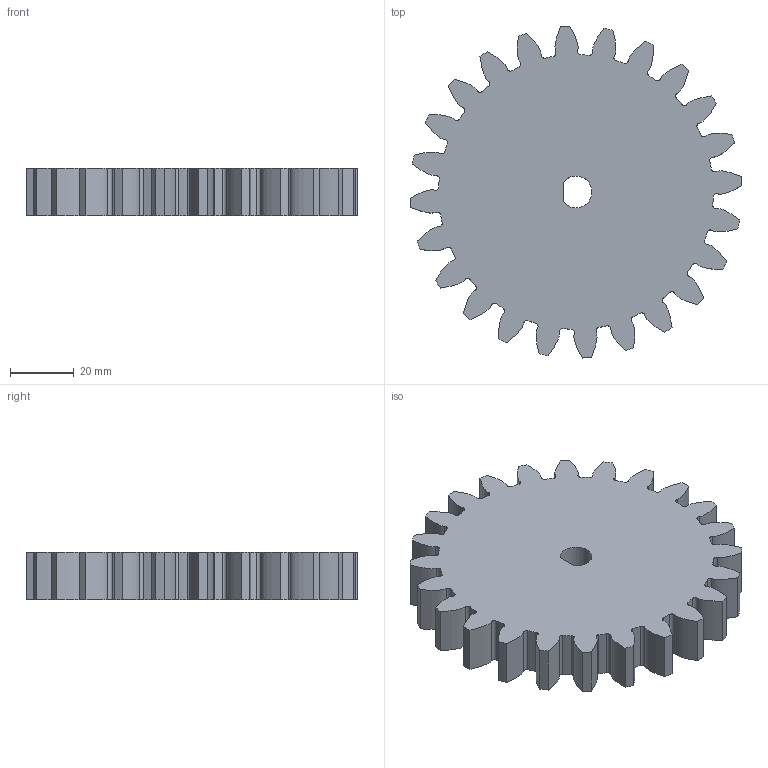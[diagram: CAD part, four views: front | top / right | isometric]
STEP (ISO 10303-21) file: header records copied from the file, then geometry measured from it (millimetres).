
FILE_DESCRIPTION (( 'STEP AP203' ), '1' );
FILE_NAME ('Pignon denture droite m=4 Z=24.STEP', '2025-09-18T12:04:16', ( '' ), ( '' ), 'SwSTEP 2.0', 'SolidWorks 2019', '' );
FILE_SCHEMA (( 'CONFIG_CONTROL_DESIGN' ));
Length unit declared in the file: millimetre
Products named in the file (1): Pignon denture droite m=4 Z=24
Bounding box: 103.93 x 103.93 x 15 mm (x, y, z)
Volume: 105394.7 mm3; surface area: 23748.6 mm2
Topology: 1 solids, 1 shells, 161 faces, 477 edges, 318 vertices
Faces by surface type: cylinder 110, bspline 48, plane 3
Entity records: 6244 total; most frequent: CARTESIAN_POINT 1965, ORIENTED_EDGE 954, DIRECTION 829, EDGE_CURVE 477, AXIS2_PLACEMENT_3D 334, VERTEX_POINT 318, CIRCLE 220, EDGE_LOOP 163
